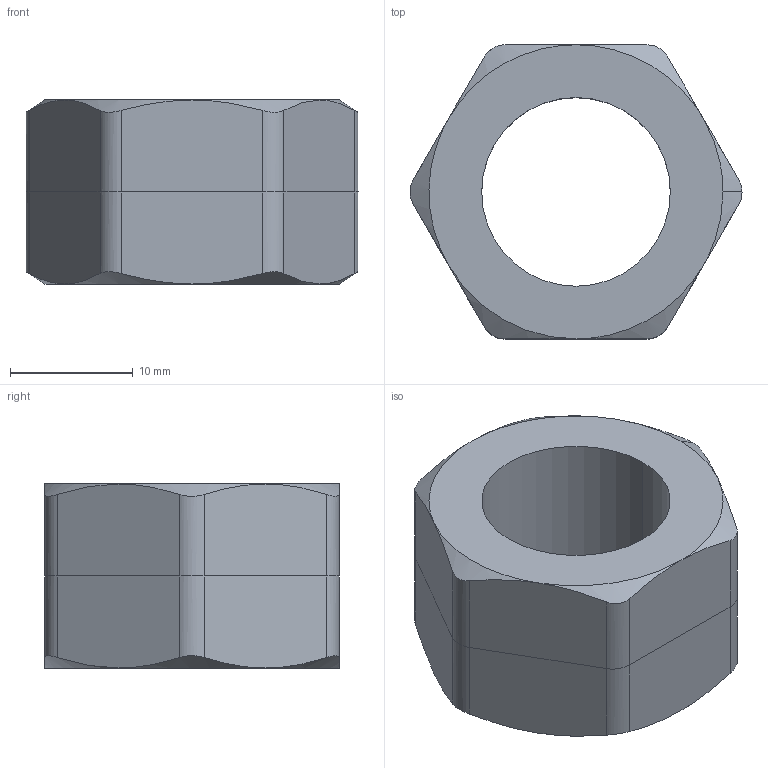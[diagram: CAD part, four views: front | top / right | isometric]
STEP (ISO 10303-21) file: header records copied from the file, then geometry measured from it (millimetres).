
FILE_DESCRIPTION(/* description */ (''),/* implementation_level */ '2;1');
FILE_NAME(/* name */ 'ADT_XFF_G38',/* time_stamp */ '2025-07-11T10:24:14+09:00',/* author */ (''),/* organization */ (''),/* preprocessor_version */ 'ST-DEVELOPER v19.2',/* originating_system */ 'Rhino 8.10',/* authorisation */ '');
FILE_SCHEMA (('CONFIG_CONTROL_DESIGN'));
Length unit declared in the file: millimetre
Products named in the file (1): Document
Bounding box: 27.09 x 24 x 15.02 mm (x, y, z)
Volume: 4643.5 mm3; surface area: 2531.4 mm2
Topology: 1 solids, 1 shells, 42 faces, 96 edges, 56 vertices
Faces by surface type: cylinder 14, plane 14, bspline 14
Entity records: 1512 total; most frequent: CARTESIAN_POINT 746, ORIENTED_EDGE 192, EDGE_CURVE 96, B_SPLINE_CURVE_WITH_KNOTS 56, VERTEX_POINT 56, DIRECTION 56, EDGE_LOOP 44, ADVANCED_FACE 42
